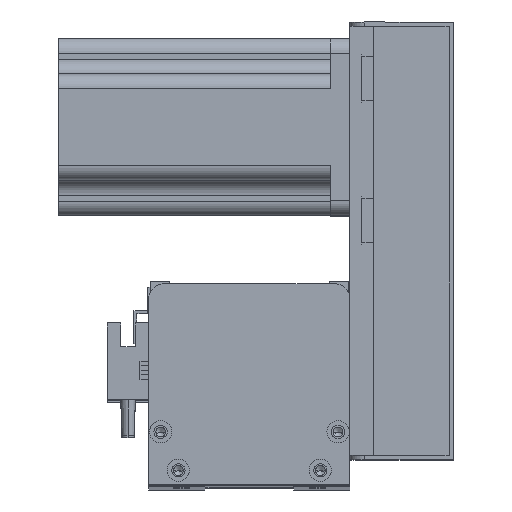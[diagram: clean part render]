
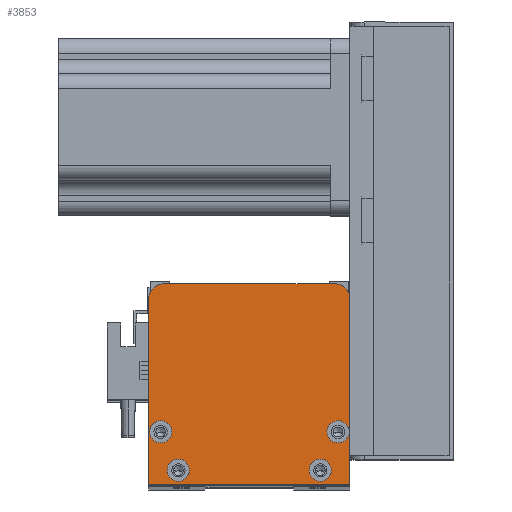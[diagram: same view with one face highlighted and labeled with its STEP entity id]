
A CAD part, top view. The second image highlights one B-rep face of the part: STEP entity #3853.
In plain terms, the highlighted planar face has unit normal (0, 0, 1).
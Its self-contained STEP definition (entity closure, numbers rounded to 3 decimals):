
#313 = ORIENTED_EDGE ( 'NONE', *, *, #22803, .F. ) ;
#393 = CARTESIAN_POINT ( 'NONE',  ( 63., 68., 64. ) ) ;
#395 = CARTESIAN_POINT ( 'NONE',  ( 0., 0., 64. ) ) ;
#560 = CIRCLE ( 'NONE', #9355, 3.75 ) ;
#897 = DIRECTION ( 'NONE',  ( 0., 0., 1. ) ) ;
#909 = CARTESIAN_POINT ( 'NONE',  ( 60.25, 18., 64. ) ) ;
#1023 = LINE ( 'NONE', #10082, #6061 ) ;
#1055 = DIRECTION ( 'NONE',  ( 0., 0., 1. ) ) ;
#1101 = CIRCLE ( 'NONE', #10560, 5. ) ;
#1533 = DIRECTION ( 'NONE',  ( 0., -1., 0. ) ) ;
#1953 = AXIS2_PLACEMENT_3D ( 'NONE', #27168, #897, #14144 ) ;
#2132 = ORIENTED_EDGE ( 'NONE', *, *, #8702, .F. ) ;
#2774 = CARTESIAN_POINT ( 'NONE',  ( 0., 63., 64. ) ) ;
#3075 = FACE_BOUND ( 'NONE', #14224, .T. ) ;
#3076 = VERTEX_POINT ( 'NONE', #10890 ) ;
#3108 = DIRECTION ( 'NONE',  ( 0., 0., 1. ) ) ;
#3312 = CARTESIAN_POINT ( 'NONE',  ( 58., 5., 64. ) ) ;
#3543 = CARTESIAN_POINT ( 'NONE',  ( 5., 63., 64. ) ) ;
#3609 = PLANE ( 'NONE',  #21607 ) ;
#3659 = ORIENTED_EDGE ( 'NONE', *, *, #20039, .T. ) ;
#3701 = EDGE_CURVE ( 'NONE', #17750, #6471, #1101, .T. ) ;
#3733 = FACE_BOUND ( 'NONE', #24307, .T. ) ;
#3853 = ADVANCED_FACE ( 'NONE', ( #3075, #3733, #12297, #6483, #6087 ), #3609, .T. ) ;
#4569 = VECTOR ( 'NONE', #10780, 1000. ) ;
#4966 = DIRECTION ( 'NONE',  ( 1., 0., 0. ) ) ;
#5318 = DIRECTION ( 'NONE',  ( 0., 0., 1. ) ) ;
#5929 = CIRCLE ( 'NONE', #7471, 3.75 ) ;
#5960 = ORIENTED_EDGE ( 'NONE', *, *, #15181, .T. ) ;
#6061 = VECTOR ( 'NONE', #18791, 1000. ) ;
#6087 = FACE_OUTER_BOUND ( 'NONE', #19912, .T. ) ;
#6177 = VECTOR ( 'NONE', #17622, 1000. ) ;
#6297 = CARTESIAN_POINT ( 'NONE',  ( 61.75, 5., 64. ) ) ;
#6471 = VERTEX_POINT ( 'NONE', #393 ) ;
#6483 = FACE_BOUND ( 'NONE', #24511, .T. ) ;
#6599 = VECTOR ( 'NONE', #1533, 1000. ) ;
#6867 = ORIENTED_EDGE ( 'NONE', *, *, #22335, .F. ) ;
#6885 = VERTEX_POINT ( 'NONE', #21388 ) ;
#6898 = VERTEX_POINT ( 'NONE', #12721 ) ;
#6927 = EDGE_CURVE ( 'NONE', #6885, #27959, #21519, .T. ) ;
#6929 = EDGE_CURVE ( 'NONE', #10322, #7439, #15807, .T. ) ;
#7439 = VERTEX_POINT ( 'NONE', #909 ) ;
#7471 = AXIS2_PLACEMENT_3D ( 'NONE', #7632, #3108, #11904 ) ;
#7571 = DIRECTION ( 'NONE',  ( 0., 0., 1. ) ) ;
#7594 = DIRECTION ( 'NONE',  ( 1., 0., 0. ) ) ;
#7632 = CARTESIAN_POINT ( 'NONE',  ( 10., 5., 64. ) ) ;
#8120 = CIRCLE ( 'NONE', #10595, 3.75 ) ;
#8121 = CARTESIAN_POINT ( 'NONE',  ( 5., 68., 64. ) ) ;
#8391 = VERTEX_POINT ( 'NONE', #8121 ) ;
#8427 = CIRCLE ( 'NONE', #12831, 3.75 ) ;
#8529 = ORIENTED_EDGE ( 'NONE', *, *, #3701, .T. ) ;
#8702 = EDGE_CURVE ( 'NONE', #7439, #10322, #560, .T. ) ;
#8911 = EDGE_CURVE ( 'NONE', #8391, #26861, #15094, .T. ) ;
#9038 = ORIENTED_EDGE ( 'NONE', *, *, #13613, .F. ) ;
#9355 = AXIS2_PLACEMENT_3D ( 'NONE', #22439, #11508, #9506 ) ;
#9392 = CARTESIAN_POINT ( 'NONE',  ( 63., 63., 64. ) ) ;
#9506 = DIRECTION ( 'NONE',  ( 1., 0., 0. ) ) ;
#9878 = CARTESIAN_POINT ( 'NONE',  ( 58., 5., 64. ) ) ;
#10039 = EDGE_CURVE ( 'NONE', #6471, #8391, #26501, .T. ) ;
#10082 = CARTESIAN_POINT ( 'NONE',  ( 68., 0., 64. ) ) ;
#10322 = VERTEX_POINT ( 'NONE', #12187 ) ;
#10355 = CIRCLE ( 'NONE', #11113, 3.75 ) ;
#10449 = ORIENTED_EDGE ( 'NONE', *, *, #6927, .F. ) ;
#10483 = ORIENTED_EDGE ( 'NONE', *, *, #14996, .T. ) ;
#10560 = AXIS2_PLACEMENT_3D ( 'NONE', #9392, #1055, #22607 ) ;
#10595 = AXIS2_PLACEMENT_3D ( 'NONE', #9878, #23219, #18985 ) ;
#10780 = DIRECTION ( 'NONE',  ( 0., 1., 0. ) ) ;
#10890 = CARTESIAN_POINT ( 'NONE',  ( 68., 0., 64. ) ) ;
#11113 = AXIS2_PLACEMENT_3D ( 'NONE', #26717, #7571, #14036 ) ;
#11508 = DIRECTION ( 'NONE',  ( 0., 0., 1. ) ) ;
#11571 = CARTESIAN_POINT ( 'NONE',  ( 6.25, 5., 64. ) ) ;
#11664 = CARTESIAN_POINT ( 'NONE',  ( 4., 18., 64. ) ) ;
#11890 = VERTEX_POINT ( 'NONE', #11571 ) ;
#11904 = DIRECTION ( 'NONE',  ( 1., 0., 0. ) ) ;
#12187 = CARTESIAN_POINT ( 'NONE',  ( 67.75, 18., 64. ) ) ;
#12297 = FACE_BOUND ( 'NONE', #24798, .T. ) ;
#12721 = CARTESIAN_POINT ( 'NONE',  ( 13.75, 5., 64. ) ) ;
#12831 = AXIS2_PLACEMENT_3D ( 'NONE', #15894, #18055, #4966 ) ;
#12921 = ORIENTED_EDGE ( 'NONE', *, *, #10039, .T. ) ;
#13613 = EDGE_CURVE ( 'NONE', #6898, #11890, #5929, .T. ) ;
#14007 = CARTESIAN_POINT ( 'NONE',  ( 0.25, 18., 64. ) ) ;
#14036 = DIRECTION ( 'NONE',  ( 1., 0., 0. ) ) ;
#14144 = DIRECTION ( 'NONE',  ( 1., 0., 0. ) ) ;
#14224 = EDGE_LOOP ( 'NONE', ( #15883, #2132 ) ) ;
#14895 = ORIENTED_EDGE ( 'NONE', *, *, #27691, .F. ) ;
#14996 = EDGE_CURVE ( 'NONE', #3076, #17750, #16110, .T. ) ;
#15094 = CIRCLE ( 'NONE', #19529, 5. ) ;
#15181 = EDGE_CURVE ( 'NONE', #21856, #3076, #1023, .T. ) ;
#15265 = ORIENTED_EDGE ( 'NONE', *, *, #15420, .F. ) ;
#15420 = EDGE_CURVE ( 'NONE', #16860, #27515, #8120, .T. ) ;
#15807 = CIRCLE ( 'NONE', #1953, 3.75 ) ;
#15865 = AXIS2_PLACEMENT_3D ( 'NONE', #3312, #22758, #18446 ) ;
#15883 = ORIENTED_EDGE ( 'NONE', *, *, #6929, .F. ) ;
#15894 = CARTESIAN_POINT ( 'NONE',  ( 4., 18., 64. ) ) ;
#16110 = LINE ( 'NONE', #21742, #4569 ) ;
#16860 = VERTEX_POINT ( 'NONE', #17515 ) ;
#17427 = CARTESIAN_POINT ( 'NONE',  ( 68., 68., 64. ) ) ;
#17515 = CARTESIAN_POINT ( 'NONE',  ( 54.25, 5., 64. ) ) ;
#17622 = DIRECTION ( 'NONE',  ( -1., 0., 0. ) ) ;
#17750 = VERTEX_POINT ( 'NONE', #25547 ) ;
#17823 = CIRCLE ( 'NONE', #15865, 3.75 ) ;
#18055 = DIRECTION ( 'NONE',  ( 0., 0., 1. ) ) ;
#18136 = LINE ( 'NONE', #23479, #6599 ) ;
#18446 = DIRECTION ( 'NONE',  ( 1., 0., 0. ) ) ;
#18698 = DIRECTION ( 'NONE',  ( 0., 0., 1. ) ) ;
#18751 = DIRECTION ( 'NONE',  ( 0., 0., 1. ) ) ;
#18791 = DIRECTION ( 'NONE',  ( 1., 0., 0. ) ) ;
#18985 = DIRECTION ( 'NONE',  ( 1., 0., 0. ) ) ;
#19529 = AXIS2_PLACEMENT_3D ( 'NONE', #3543, #18698, #7594 ) ;
#19912 = EDGE_LOOP ( 'NONE', ( #12921, #27178, #3659, #5960, #10483, #8529 ) ) ;
#20039 = EDGE_CURVE ( 'NONE', #26861, #21856, #18136, .T. ) ;
#20543 = DIRECTION ( 'NONE',  ( 1., 0., 0. ) ) ;
#20927 = CARTESIAN_POINT ( 'NONE',  ( 0., 0., 64. ) ) ;
#21388 = CARTESIAN_POINT ( 'NONE',  ( 7.75, 18., 64. ) ) ;
#21519 = CIRCLE ( 'NONE', #22219, 3.75 ) ;
#21607 = AXIS2_PLACEMENT_3D ( 'NONE', #20927, #18751, #20543 ) ;
#21742 = CARTESIAN_POINT ( 'NONE',  ( 68., 0., 64. ) ) ;
#21856 = VERTEX_POINT ( 'NONE', #395 ) ;
#22219 = AXIS2_PLACEMENT_3D ( 'NONE', #11664, #5318, #26986 ) ;
#22335 = EDGE_CURVE ( 'NONE', #11890, #6898, #10355, .T. ) ;
#22439 = CARTESIAN_POINT ( 'NONE',  ( 64., 18., 64. ) ) ;
#22607 = DIRECTION ( 'NONE',  ( 1., 0., 0. ) ) ;
#22758 = DIRECTION ( 'NONE',  ( 0., 0., 1. ) ) ;
#22803 = EDGE_CURVE ( 'NONE', #27515, #16860, #17823, .T. ) ;
#23219 = DIRECTION ( 'NONE',  ( 0., 0., 1. ) ) ;
#23479 = CARTESIAN_POINT ( 'NONE',  ( 0., 0., 64. ) ) ;
#24307 = EDGE_LOOP ( 'NONE', ( #10449, #14895 ) ) ;
#24511 = EDGE_LOOP ( 'NONE', ( #313, #15265 ) ) ;
#24798 = EDGE_LOOP ( 'NONE', ( #9038, #6867 ) ) ;
#25547 = CARTESIAN_POINT ( 'NONE',  ( 68., 63., 64. ) ) ;
#26501 = LINE ( 'NONE', #17427, #6177 ) ;
#26717 = CARTESIAN_POINT ( 'NONE',  ( 10., 5., 64. ) ) ;
#26861 = VERTEX_POINT ( 'NONE', #2774 ) ;
#26986 = DIRECTION ( 'NONE',  ( 1., 0., 0. ) ) ;
#27168 = CARTESIAN_POINT ( 'NONE',  ( 64., 18., 64. ) ) ;
#27178 = ORIENTED_EDGE ( 'NONE', *, *, #8911, .T. ) ;
#27515 = VERTEX_POINT ( 'NONE', #6297 ) ;
#27691 = EDGE_CURVE ( 'NONE', #27959, #6885, #8427, .T. ) ;
#27959 = VERTEX_POINT ( 'NONE', #14007 ) ;
